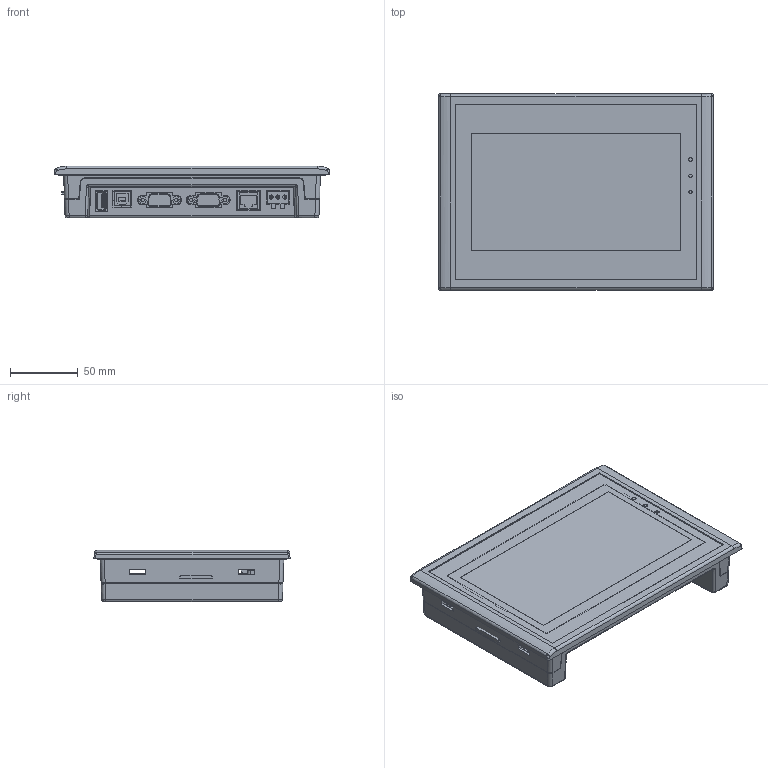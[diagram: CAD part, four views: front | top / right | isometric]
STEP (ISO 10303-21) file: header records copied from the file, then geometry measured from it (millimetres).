
FILE_DESCRIPTION((''),'2;1');
FILE_NAME('SK-070HE_HS_AK-070H_EA-070B_ASM','2022-11-16T',('samkoon'),(''),'PRO/ENGINEER BY PARAMETRIC TECHNOLOGY CORPORATION, 2015240','PRO/ENGINEER BY PARAMETRIC TECHNOLOGY CORPORATION, 2015240','');
FILE_SCHEMA(('AUTOMOTIVE_DESIGN { 1 0 10303 214 1 1 1 1 }'));
Products named in the file (2): SK-070HE_HS_AK-070H_EA-070B_EA-_ASM; SK-070HE_HS_AK-070H_EA-070B_ASM
Assembly tree (1 placements, depth 2):
  SK-070HE_HS_AK-070H_EA-070B_ASM
    SK-070HE_HS_AK-070H_EA-070B_EA-_ASM
Bounding box: 203.2 x 145 x 38 mm (x, y, z)
Surface area: 343168.4 mm2 (no closed solid volume)
Topology: 0 solids, 17 shells, 2667 faces, 7804 edges, 5244 vertices
Faces by surface type: plane 1828, cylinder 715, torus 44, bspline 32, cone 30, sphere 10, extrusion 8
Entity records: 103306 total; most frequent: CARTESIAN_POINT 18452, ORIENTED_EDGE 15588, DIRECTION 14529, EDGE_CURVE 7794, VECTOR 5717, LINE 5709, VERTEX_POINT 5244, AXIS2_PLACEMENT_3D 4406
